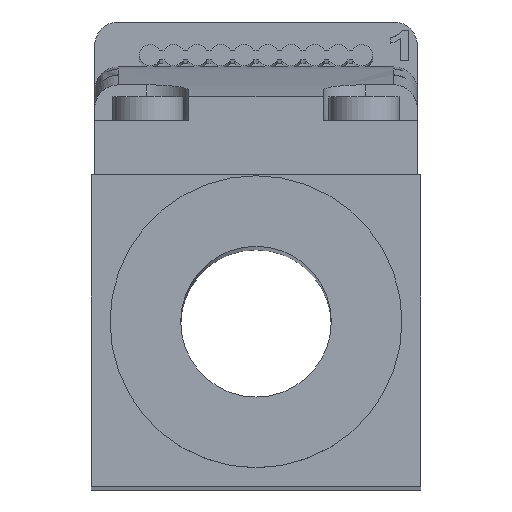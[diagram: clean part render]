
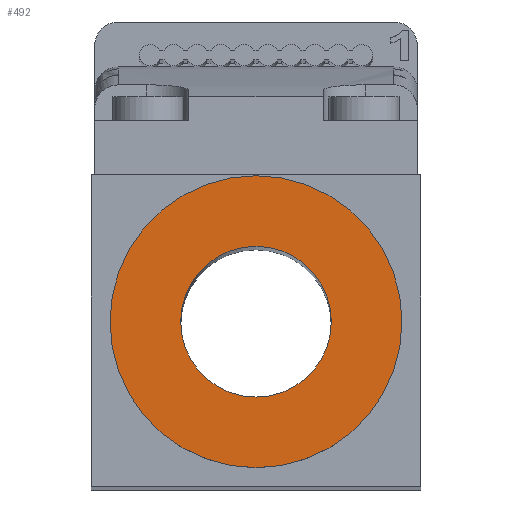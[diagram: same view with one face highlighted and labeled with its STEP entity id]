
A CAD part, top view. The second image highlights one B-rep face of the part: STEP entity #492.
In plain terms, the highlighted planar face has unit normal (0, 0, 1).
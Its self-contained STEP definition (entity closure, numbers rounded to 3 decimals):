
#420=FACE_BOUND('',#744,.T.);
#421=FACE_BOUND('',#745,.T.);
#492=ADVANCED_FACE('',(#420,#421),#575,.T.);
#575=PLANE('',#1956);
#744=EDGE_LOOP('',(#1031));
#745=EDGE_LOOP('',(#1032));
#1031=ORIENTED_EDGE('',*,*,#1690,.F.);
#1032=ORIENTED_EDGE('',*,*,#1530,.T.);
#1354=VERTEX_POINT('',#2602);
#1488=VERTEX_POINT('',#2987);
#1530=EDGE_CURVE('',#1354,#1354,#1785,.T.);
#1690=EDGE_CURVE('',#1488,#1488,#1840,.T.);
#1785=CIRCLE('',#1872,3.2);
#1840=CIRCLE('',#1954,6.2);
#1872=AXIS2_PLACEMENT_3D('',#2601,#2069,#2070);
#1954=AXIS2_PLACEMENT_3D('',#2986,#2332,#2333);
#1956=AXIS2_PLACEMENT_3D('',#2989,#2336,#2337);
#2069=DIRECTION('',(0.,0.,-1.));
#2070=DIRECTION('',(1.,0.,0.));
#2332=DIRECTION('',(0.,0.,-1.));
#2333=DIRECTION('',(1.,0.,0.));
#2336=DIRECTION('',(0.,0.,1.));
#2337=DIRECTION('',(-1.,0.,0.));
#2601=CARTESIAN_POINT('',(0.,0.,0.));
#2602=CARTESIAN_POINT('',(3.2,0.,0.));
#2986=CARTESIAN_POINT('',(0.,0.,0.));
#2987=CARTESIAN_POINT('',(6.2,0.,0.));
#2989=CARTESIAN_POINT('',(0.,0.,0.));
